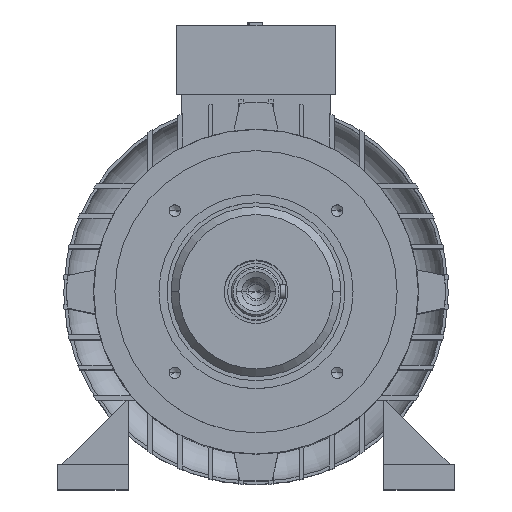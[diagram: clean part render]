
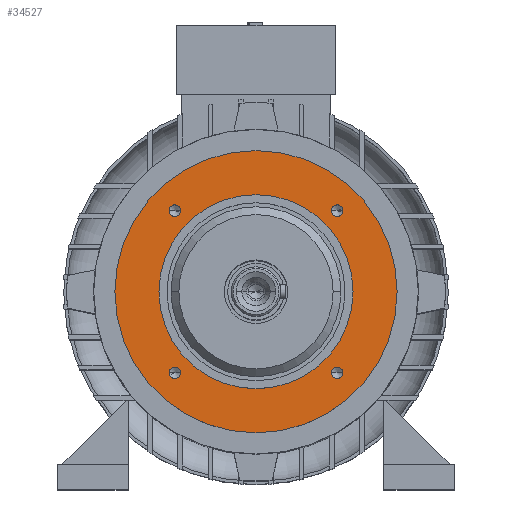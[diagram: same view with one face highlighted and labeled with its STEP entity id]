
A CAD part, top view. The second image highlights one B-rep face of the part: STEP entity #34527.
In plain terms, the highlighted planar face has unit normal (0, 0, 1).
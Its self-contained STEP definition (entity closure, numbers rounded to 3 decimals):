
#385 = DIRECTION ( 'NONE',  ( 1., 0., 0. ) ) ;
#418 = AXIS2_PLACEMENT_3D ( 'NONE', #26716, #2709, #28967 ) ;
#474 = DIRECTION ( 'NONE',  ( 0., 0., -1. ) ) ;
#593 = DIRECTION ( 'NONE',  ( -1., 0., 0. ) ) ;
#857 = AXIS2_PLACEMENT_3D ( 'NONE', #4545, #23384, #22921 ) ;
#1317 = CARTESIAN_POINT ( 'NONE',  ( 55., 0., 140. ) ) ;
#1896 = CARTESIAN_POINT ( 'NONE',  ( 49.212, 45.962, 140. ) ) ;
#2352 = ORIENTED_EDGE ( 'NONE', *, *, #26524, .F. ) ;
#2709 = DIRECTION ( 'NONE',  ( 0., 0., -1. ) ) ;
#2767 = EDGE_CURVE ( 'NONE', #4034, #14465, #24579, .T. ) ;
#2950 = ORIENTED_EDGE ( 'NONE', *, *, #19669, .T. ) ;
#3393 = AXIS2_PLACEMENT_3D ( 'NONE', #19259, #30142, #385 ) ;
#3478 = CIRCLE ( 'NONE', #3393, 3.25 ) ;
#4034 = VERTEX_POINT ( 'NONE', #9274 ) ;
#4107 = EDGE_LOOP ( 'NONE', ( #17283, #18468 ) ) ;
#4545 = CARTESIAN_POINT ( 'NONE',  ( -45.962, -45.962, 140. ) ) ;
#5641 = CARTESIAN_POINT ( 'NONE',  ( 0., 80., 140. ) ) ;
#5877 = CIRCLE ( 'NONE', #6121, 55. ) ;
#6051 = AXIS2_PLACEMENT_3D ( 'NONE', #22571, #6526, #17348 ) ;
#6090 = DIRECTION ( 'NONE',  ( 0., 0., 1. ) ) ;
#6121 = AXIS2_PLACEMENT_3D ( 'NONE', #16793, #474, #16444 ) ;
#6526 = DIRECTION ( 'NONE',  ( 0., 0., 1. ) ) ;
#6891 = CARTESIAN_POINT ( 'NONE',  ( 0., 0., 140. ) ) ;
#6993 = CIRCLE ( 'NONE', #857, 3.25 ) ;
#7729 = VERTEX_POINT ( 'NONE', #22073 ) ;
#8080 = ORIENTED_EDGE ( 'NONE', *, *, #8453, .F. ) ;
#8234 = PLANE ( 'NONE',  #31118 ) ;
#8453 = EDGE_CURVE ( 'NONE', #14465, #4034, #6993, .T. ) ;
#8785 = CARTESIAN_POINT ( 'NONE',  ( 49.212, -45.962, 140. ) ) ;
#8822 = EDGE_LOOP ( 'NONE', ( #2352, #32982 ) ) ;
#8988 = AXIS2_PLACEMENT_3D ( 'NONE', #9376, #30701, #27991 ) ;
#9274 = CARTESIAN_POINT ( 'NONE',  ( -49.212, -45.962, 140. ) ) ;
#9376 = CARTESIAN_POINT ( 'NONE',  ( 45.962, 45.962, 140. ) ) ;
#9620 = FACE_BOUND ( 'NONE', #23634, .T. ) ;
#10360 = VERTEX_POINT ( 'NONE', #17563 ) ;
#10432 = AXIS2_PLACEMENT_3D ( 'NONE', #6891, #12372, #28235 ) ;
#10991 = DIRECTION ( 'NONE',  ( 0., 0., 1. ) ) ;
#10997 = EDGE_CURVE ( 'NONE', #7729, #23073, #15433, .T. ) ;
#11270 = ORIENTED_EDGE ( 'NONE', *, *, #32827, .T. ) ;
#12027 = ORIENTED_EDGE ( 'NONE', *, *, #25451, .F. ) ;
#12348 = CIRCLE ( 'NONE', #10432, 55. ) ;
#12358 = VERTEX_POINT ( 'NONE', #8785 ) ;
#12372 = DIRECTION ( 'NONE',  ( 0., 0., -1. ) ) ;
#12738 = DIRECTION ( 'NONE',  ( 1., 0., 0. ) ) ;
#13373 = DIRECTION ( 'NONE',  ( 1., 0., 0. ) ) ;
#13391 = CIRCLE ( 'NONE', #33007, 3.25 ) ;
#13806 = DIRECTION ( 'NONE',  ( 0., 0., -1. ) ) ;
#14465 = VERTEX_POINT ( 'NONE', #30365 ) ;
#15186 = CIRCLE ( 'NONE', #33353, 3.25 ) ;
#15433 = CIRCLE ( 'NONE', #17801, 3.25 ) ;
#15654 = CARTESIAN_POINT ( 'NONE',  ( 42.712, -45.962, 140. ) ) ;
#15818 = EDGE_LOOP ( 'NONE', ( #26023, #12027 ) ) ;
#15939 = FACE_OUTER_BOUND ( 'NONE', #8822, .T. ) ;
#16444 = DIRECTION ( 'NONE',  ( -1., 0., 0. ) ) ;
#16766 = FACE_BOUND ( 'NONE', #20166, .T. ) ;
#16793 = CARTESIAN_POINT ( 'NONE',  ( 0., 0., 140. ) ) ;
#17119 = CIRCLE ( 'NONE', #6051, 3.25 ) ;
#17158 = VERTEX_POINT ( 'NONE', #31280 ) ;
#17283 = ORIENTED_EDGE ( 'NONE', *, *, #21808, .F. ) ;
#17348 = DIRECTION ( 'NONE',  ( 1., 0., 0. ) ) ;
#17563 = CARTESIAN_POINT ( 'NONE',  ( 42.712, 45.962, 140. ) ) ;
#17692 = VERTEX_POINT ( 'NONE', #20208 ) ;
#17801 = AXIS2_PLACEMENT_3D ( 'NONE', #20892, #34197, #12738 ) ;
#18434 = FACE_BOUND ( 'NONE', #4107, .T. ) ;
#18466 = CARTESIAN_POINT ( 'NONE',  ( -45.962, -45.962, 140. ) ) ;
#18468 = ORIENTED_EDGE ( 'NONE', *, *, #19472, .F. ) ;
#18586 = DIRECTION ( 'NONE',  ( 0., 0., 1. ) ) ;
#19259 = CARTESIAN_POINT ( 'NONE',  ( 45.962, -45.962, 140. ) ) ;
#19444 = CARTESIAN_POINT ( 'NONE',  ( 45.962, -45.962, 140. ) ) ;
#19451 = CARTESIAN_POINT ( 'NONE',  ( 45.962, 45.962, 140. ) ) ;
#19472 = EDGE_CURVE ( 'NONE', #26501, #12358, #3478, .T. ) ;
#19669 = EDGE_CURVE ( 'NONE', #24991, #32876, #12348, .T. ) ;
#20166 = EDGE_LOOP ( 'NONE', ( #27209, #28345 ) ) ;
#20208 = CARTESIAN_POINT ( 'NONE',  ( 80., 0., 140. ) ) ;
#20892 = CARTESIAN_POINT ( 'NONE',  ( -45.962, 45.962, 140. ) ) ;
#21003 = AXIS2_PLACEMENT_3D ( 'NONE', #27510, #13806, #593 ) ;
#21357 = FACE_BOUND ( 'NONE', #15818, .T. ) ;
#21735 = EDGE_CURVE ( 'NONE', #17692, #17158, #25855, .T. ) ;
#21808 = EDGE_CURVE ( 'NONE', #12358, #26501, #13391, .T. ) ;
#21861 = EDGE_CURVE ( 'NONE', #29183, #10360, #30902, .T. ) ;
#21940 = EDGE_CURVE ( 'NONE', #23073, #7729, #17119, .T. ) ;
#22073 = CARTESIAN_POINT ( 'NONE',  ( -49.212, 45.962, 140. ) ) ;
#22571 = CARTESIAN_POINT ( 'NONE',  ( -45.962, 45.962, 140. ) ) ;
#22815 = ORIENTED_EDGE ( 'NONE', *, *, #2767, .F. ) ;
#22921 = DIRECTION ( 'NONE',  ( 1., 0., 0. ) ) ;
#23073 = VERTEX_POINT ( 'NONE', #27379 ) ;
#23384 = DIRECTION ( 'NONE',  ( 0., 0., 1. ) ) ;
#23634 = EDGE_LOOP ( 'NONE', ( #11270, #2950 ) ) ;
#24300 = CIRCLE ( 'NONE', #418, 80. ) ;
#24542 = EDGE_LOOP ( 'NONE', ( #8080, #22815 ) ) ;
#24579 = CIRCLE ( 'NONE', #30833, 3.25 ) ;
#24991 = VERTEX_POINT ( 'NONE', #1317 ) ;
#25451 = EDGE_CURVE ( 'NONE', #10360, #29183, #15186, .T. ) ;
#25855 = CIRCLE ( 'NONE', #21003, 80. ) ;
#26023 = ORIENTED_EDGE ( 'NONE', *, *, #21861, .F. ) ;
#26501 = VERTEX_POINT ( 'NONE', #15654 ) ;
#26524 = EDGE_CURVE ( 'NONE', #17158, #17692, #24300, .T. ) ;
#26716 = CARTESIAN_POINT ( 'NONE',  ( 0., 0., 140. ) ) ;
#26955 = DIRECTION ( 'NONE',  ( 1., 0., 0. ) ) ;
#27209 = ORIENTED_EDGE ( 'NONE', *, *, #21940, .F. ) ;
#27379 = CARTESIAN_POINT ( 'NONE',  ( -42.712, 45.962, 140. ) ) ;
#27510 = CARTESIAN_POINT ( 'NONE',  ( 0., 0., 140. ) ) ;
#27515 = CARTESIAN_POINT ( 'NONE',  ( -55., 0., 140. ) ) ;
#27991 = DIRECTION ( 'NONE',  ( 1., 0., 0. ) ) ;
#28235 = DIRECTION ( 'NONE',  ( -1., 0., 0. ) ) ;
#28345 = ORIENTED_EDGE ( 'NONE', *, *, #10997, .F. ) ;
#28967 = DIRECTION ( 'NONE',  ( -1., 0., 0. ) ) ;
#29183 = VERTEX_POINT ( 'NONE', #1896 ) ;
#29311 = FACE_BOUND ( 'NONE', #24542, .T. ) ;
#30142 = DIRECTION ( 'NONE',  ( 0., 0., 1. ) ) ;
#30224 = DIRECTION ( 'NONE',  ( 1., 0., 0. ) ) ;
#30229 = DIRECTION ( 'NONE',  ( 1., 0., 0. ) ) ;
#30365 = CARTESIAN_POINT ( 'NONE',  ( -42.712, -45.962, 140. ) ) ;
#30701 = DIRECTION ( 'NONE',  ( 0., 0., 1. ) ) ;
#30833 = AXIS2_PLACEMENT_3D ( 'NONE', #18466, #18586, #13373 ) ;
#30902 = CIRCLE ( 'NONE', #8988, 3.25 ) ;
#31118 = AXIS2_PLACEMENT_3D ( 'NONE', #5641, #10991, #26955 ) ;
#31280 = CARTESIAN_POINT ( 'NONE',  ( -80., 0., 140. ) ) ;
#32452 = DIRECTION ( 'NONE',  ( 0., 0., 1. ) ) ;
#32827 = EDGE_CURVE ( 'NONE', #32876, #24991, #5877, .T. ) ;
#32876 = VERTEX_POINT ( 'NONE', #27515 ) ;
#32982 = ORIENTED_EDGE ( 'NONE', *, *, #21735, .F. ) ;
#33007 = AXIS2_PLACEMENT_3D ( 'NONE', #19444, #32452, #30224 ) ;
#33353 = AXIS2_PLACEMENT_3D ( 'NONE', #19451, #6090, #30229 ) ;
#34197 = DIRECTION ( 'NONE',  ( 0., 0., 1. ) ) ;
#34527 = ADVANCED_FACE ( 'NONE', ( #29311, #16766, #21357, #18434, #9620, #15939 ), #8234, .T. ) ;
